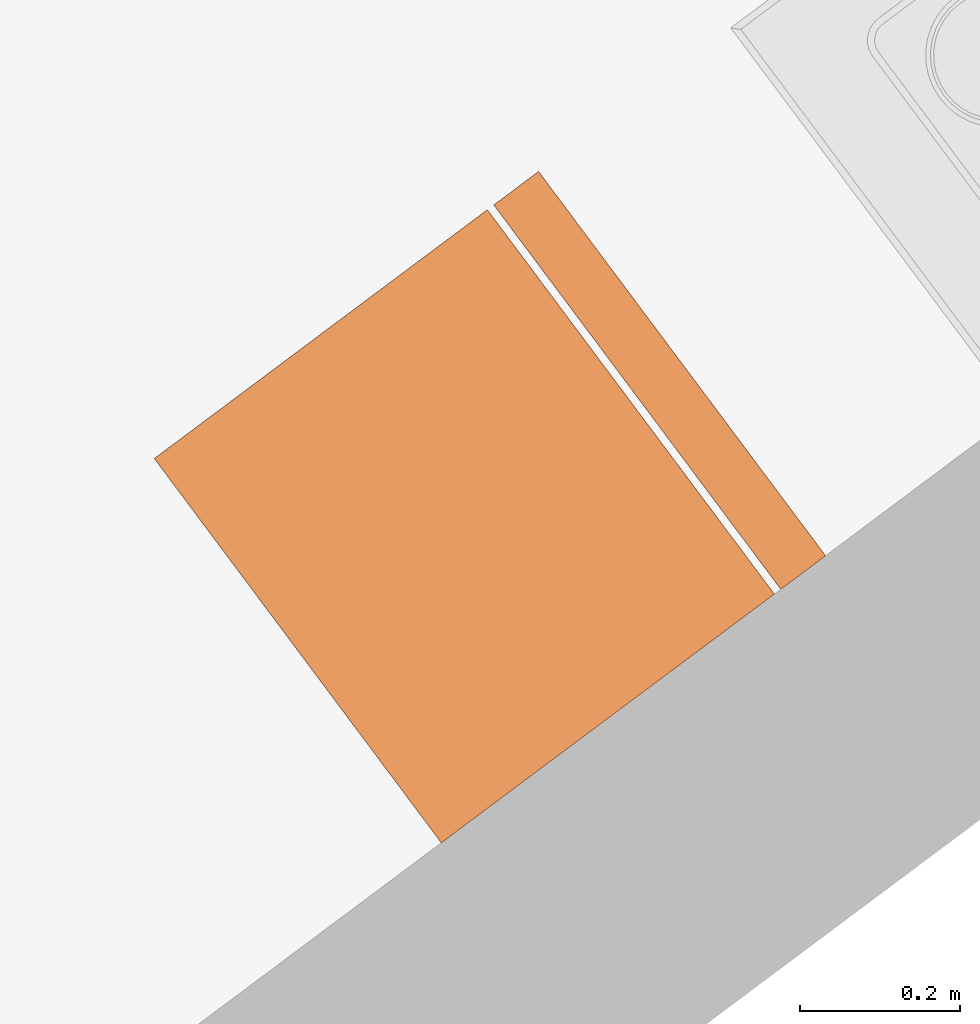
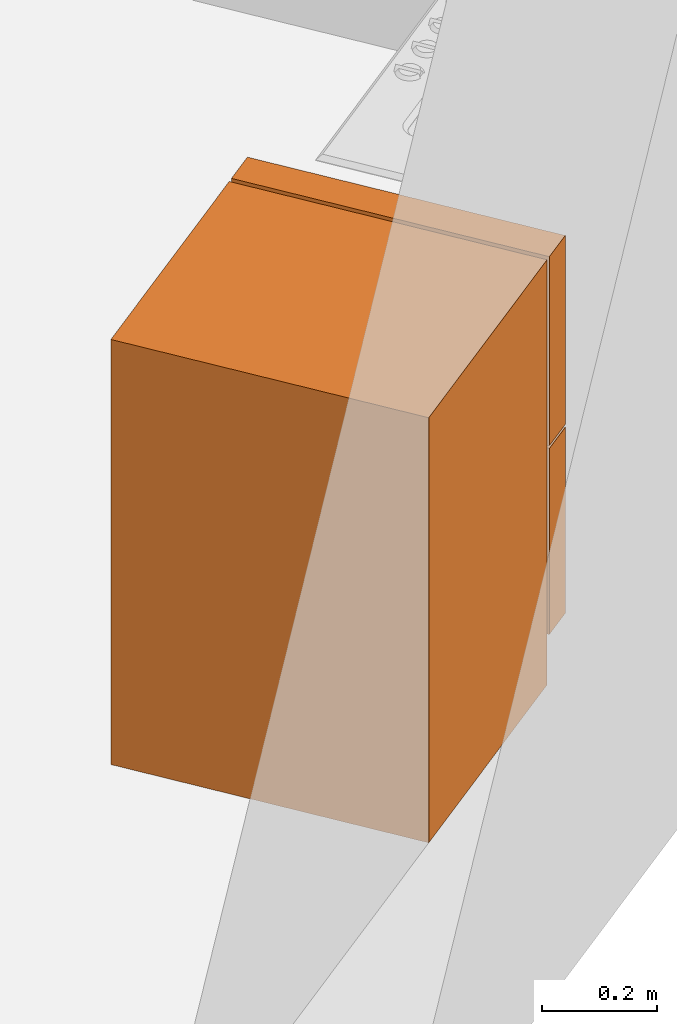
# One storey, part 110 of 121: 1 proxy.
"""IFC2X3 building model written with IfcOpenShell, lengths in metres."""

from ifc_helpers import new_model, entity, si_unit, converted_unit, derived_unit, money_unit, direction, frame, origin_with_axes, place, context, subcontext, project, spatial, open_shell, faceted_brep, surface_model, source, transform, mapped, type_object, element, save


model = new_model("IFC2X3")

# Units and contexts
model_context = context("Model", 3, precision=1e-05, world=origin_with_axes(), true_north=direction((0.0, 1.0)))
body_context = subcontext(model_context, "Body", "Model", "MODEL_VIEW")
ifc_project = project(units=[si_unit("LENGTHUNIT", "METRE"), si_unit("AREAUNIT", "SQUARE_METRE"), si_unit("VOLUMEUNIT", "CUBIC_METRE"), converted_unit("PLANEANGLEUNIT", "DEGREE", entity("IfcPlaneAngleMeasure", 0.0174532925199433), si_unit("PLANEANGLEUNIT", "RADIAN"), dimensions=[0, 0, 0, 0, 0, 0, 0]), money_unit("CHF"), converted_unit("TIMEUNIT", "Year", entity("IfcTimeMeasure", 31557600.0), si_unit("TIMEUNIT", "SECOND"), dimensions=[0, 0, 1, 0, 0, 0, 0]), si_unit("MASSUNIT", "GRAM", prefix="KILO"), si_unit("THERMODYNAMICTEMPERATUREUNIT", "DEGREE_CELSIUS"), si_unit("LUMINOUSINTENSITYUNIT", "LUMEN"), si_unit("ENERGYUNIT", "JOULE", prefix="MEGA"), derived_unit("THERMALCONDUCTANCEUNIT", [(si_unit("POWERUNIT", "WATT"), 1), (si_unit("LENGTHUNIT", "METRE"), -1), (si_unit("THERMODYNAMICTEMPERATUREUNIT", "KELVIN"), -1)]), derived_unit("SPECIFICHEATCAPACITYUNIT", [(si_unit("ENERGYUNIT", "JOULE"), 1), (si_unit("MASSUNIT", "GRAM", prefix="KILO"), -1), (si_unit("THERMODYNAMICTEMPERATUREUNIT", "KELVIN"), -1)]), derived_unit("MASSDENSITYUNIT", [(si_unit("MASSUNIT", "GRAM", prefix="KILO"), 1), (si_unit("VOLUMEUNIT", "CUBIC_METRE"), -1)])], contexts=[model_context])

# Site, building, storey
site_placement = place(None, origin_with_axes())
site = spatial("IfcSite", under=ifc_project, at=site_placement, Name="Site", CompositionType="ELEMENT")
building_placement = place(site_placement, origin_with_axes())
building = spatial("IfcBuilding", under=site, at=building_placement, Name="Bâtiment", CompositionType="ELEMENT")
storey_placement = place(building_placement, frame((0.0, 0.0, 2.75), z_axis=(0.0, 0.0, 1.0), x_axis=(1.0, 0.0, 0.0)))
storey = spatial("IfcBuildingStorey", under=building, at=storey_placement, Name="Etage 1", CompositionType="ELEMENT", Elevation=2.75)

# Proxy
building_element_proxy_type = type_object("IfcBuildingElementProxyType", PredefinedType="NOTDEFINED")
shared_shape = source(origin_with_axes(), body_context, "Body", "SurfaceModel", [
    faceted_brep([(0.0, 0.08, 0.1), (0.6, 0.08, 0.1), (0.6, 0.08, 0.9), (0.0, 0.08, 0.9), (0.0, 0.6, 0.1), (0.6, 0.6, 0.1), (0.6, 0.6, 0.9), (0.0, 0.6, 0.9)], [[[0, 1, 2, 3]], [[0, 4, 5, 1]], [[1, 5, 6, 2]], [[3, 2, 6, 7]], [[4, 0, 3, 7]], [[5, 4, 7, 6]]]),
    faceted_brep([(0.0, 0.08, 0.0), (0.6, 0.08, 0.0), (0.6, 0.08, 0.1), (0.0, 0.08, 0.1), (0.0, 0.6, 0.0), (0.6, 0.6, 0.0), (0.6, 0.6, 0.1), (0.0, 0.6, 0.1)], [[[0, 1, 2, 3]], [[0, 4, 5, 1]], [[1, 5, 6, 2]], [[3, 2, 6, 7]], [[4, 0, 3, 7]], [[5, 4, 7, 6]]]),
    faceted_brep([(0.0, 0.07, 0.1), (0.6, 0.07, 0.1), (0.6, 0.0, 0.1), (0.0, 0.0, 0.1), (0.0, 0.07000000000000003, 0.494), (0.6, 0.07000000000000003, 0.494), (0.6, 0.0, 0.494), (0.0, 0.0, 0.494)], [[[0, 1, 2, 3]], [[0, 4, 5, 1]], [[1, 5, 6, 2]], [[3, 2, 6, 7]], [[4, 0, 3, 7]], [[5, 4, 7, 6]]]),
    faceted_brep([(0.0, 0.07, 0.5), (0.6, 0.07, 0.5), (0.6, 0.0, 0.5), (0.0, 0.0, 0.5), (0.0, 0.07000000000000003, 0.9), (0.6, 0.07000000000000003, 0.9), (0.6, 0.0, 0.9), (0.0, 0.0, 0.9)], [[[0, 1, 2, 3]], [[0, 4, 5, 1]], [[1, 5, 6, 2]], [[3, 2, 6, 7]], [[4, 0, 3, 7]], [[5, 4, 7, 6]]]),
    surface_model("IfcShellBasedSurfaceModel", [(0.6, -0.03, 0.3), (0.6, -0.03, 0.4940000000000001), (0.6, 0.0, 0.4940000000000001), (0.6, 0.0, 0.3)], [open_shell([[[0, 1, 2, 3]]])]),
    surface_model("IfcShellBasedSurfaceModel", [(0.6, -0.03, 0.3), (0.6, -0.03, 0.4940000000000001), (0.57, -0.03, 0.4940000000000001), (0.57, -0.03, 0.3)], [open_shell([[[0, 1, 2, 3]]])]),
    surface_model("IfcShellBasedSurfaceModel", [(0.6, -0.03, 0.5), (0.6, -0.03, 0.7), (0.6, 0.0, 0.7), (0.6, 0.0, 0.5)], [open_shell([[[0, 1, 2, 3]]])]),
    surface_model("IfcShellBasedSurfaceModel", [(0.6, -0.03, 0.5), (0.6, -0.03, 0.7), (0.57, -0.03, 0.7), (0.57, -0.03, 0.5)], [open_shell([[[0, 1, 2, 3]]])]),
])
proxy_placement = place(storey_placement, frame((9538.794982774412, -1086.201194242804, 57.7), z_axis=(0.0, 0.0, 1.0), x_axis=(-0.5984138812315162, 0.8011871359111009, 0.0)))
element("IfcBuildingElementProxy", 1, at=proxy_placement, inside=storey, type_object=building_element_proxy_type, Name="Obj.-019", context=body_context, shape_type="MappedRepresentation", body=[
    mapped(shared_shape, transform((0.0, 0.0, 0.0))),
])

save(model, "model.ifc")
